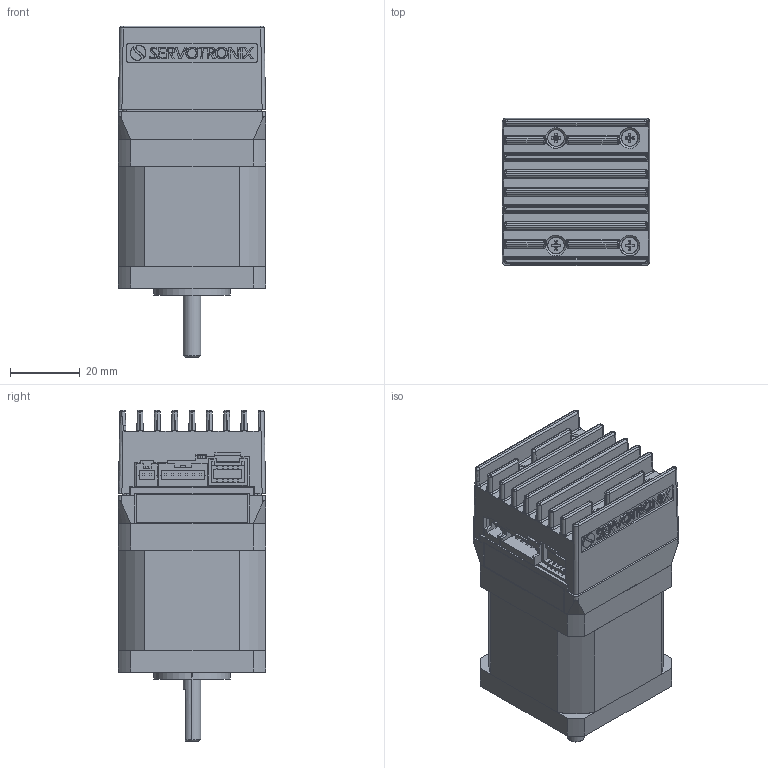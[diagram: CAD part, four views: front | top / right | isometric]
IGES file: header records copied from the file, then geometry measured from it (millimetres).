
Start section: SolidWorks IGES file using analytic representation for surfaces
Global section: file name: C:\Work\Sevotronix\NEMA 17 stepIM 20_3_16\CAD\Injection\models and drawings for website\stepIM_IST-17S12CO10.IGS; native system: SolidWorks 2013; preprocessor: SolidWorks 2013; author: owner; date: 180321.172312; units: millimetre
Bounding box: 42.31 x 42.31 x 95.3 mm (x, y, z)
Surface area: 59242.2 mm2 (no closed solid volume)
Topology: 0 solids, 0 shells, 1945 faces, 18138 edges, 18130 vertices
Faces by surface type: bspline 1460, revolution 485
